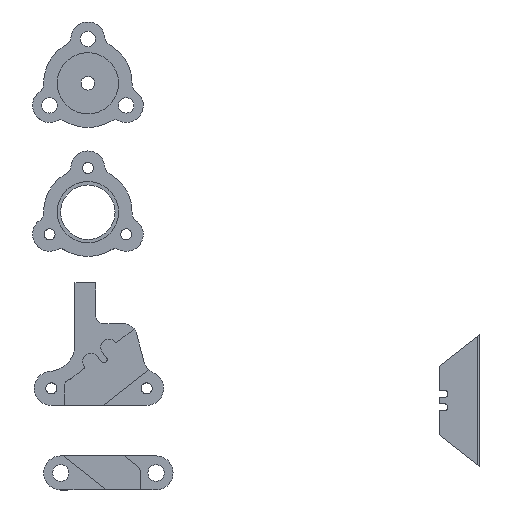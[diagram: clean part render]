
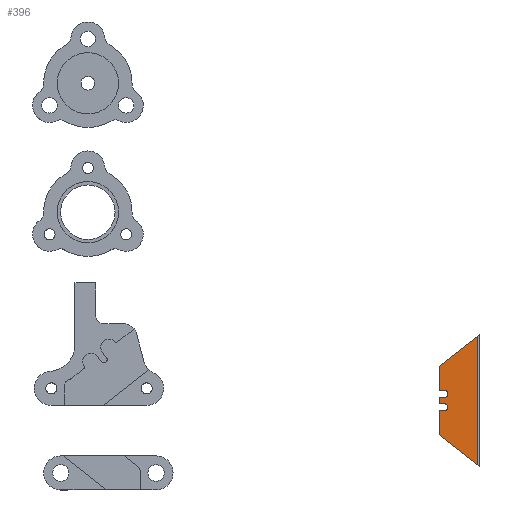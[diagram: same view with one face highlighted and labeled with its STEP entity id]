
A CAD part, top view. The second image highlights one B-rep face of the part: STEP entity #396.
In plain terms, the highlighted planar face has unit normal (0, 0, 1).
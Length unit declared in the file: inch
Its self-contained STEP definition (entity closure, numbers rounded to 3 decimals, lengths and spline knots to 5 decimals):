
#112 = VERTEX_POINT ( 'NONE', #2034 ) ;
#157 = EDGE_CURVE ( 'NONE', #3145, #808, #2847, .T. ) ;
#159 = CARTESIAN_POINT ( 'NONE',  ( 8.81318, 2.46783, 0.02362 ) ) ;
#174 = CARTESIAN_POINT ( 'NONE',  ( 8.81318, 2.02245, 0.02362 ) ) ;
#197 = VECTOR ( 'NONE', #615, 39.37008 ) ;
#245 = VECTOR ( 'NONE', #619, 39.37008 ) ;
#278 = ORIENTED_EDGE ( 'NONE', *, *, #2051, .T. ) ;
#315 = VERTEX_POINT ( 'NONE', #1229 ) ;
#333 = CARTESIAN_POINT ( 'NONE',  ( 8.81318, 2.83883, 0.02362 ) ) ;
#376 = DIRECTION ( 'NONE',  ( 0.785, -0.619, 0. ) ) ;
#396 = ADVANCED_FACE ( 'NONE', ( #1468 ), #3153, .T. ) ;
#471 = DIRECTION ( 'NONE',  ( 0., -1., 0. ) ) ;
#554 = CIRCLE ( 'NONE', #2649, 0.0625 ) ;
#568 = EDGE_CURVE ( 'NONE', #1885, #3832, #554, .T. ) ;
#615 = DIRECTION ( 'NONE',  ( 1., 0., 0. ) ) ;
#616 = ORIENTED_EDGE ( 'NONE', *, *, #2240, .T. ) ;
#619 = DIRECTION ( 'NONE',  ( -1., 0., 0. ) ) ;
#645 = CARTESIAN_POINT ( 'NONE',  ( 8.91005, 2.77633, 0.02362 ) ) ;
#688 = LINE ( 'NONE', #1747, #1403 ) ;
#710 = DIRECTION ( 'NONE',  ( 1., 0., 0. ) ) ;
#808 = VERTEX_POINT ( 'NONE', #174 ) ;
#928 = DIRECTION ( 'NONE',  ( 0., 0., -1. ) ) ;
#1007 = CARTESIAN_POINT ( 'NONE',  ( 8.91005, 2.53033, 0.02362 ) ) ;
#1089 = CARTESIAN_POINT ( 'NONE',  ( 8.81318, 2.02245, 0.02362 ) ) ;
#1192 = CARTESIAN_POINT ( 'NONE',  ( 8.91005, 2.53033, 0.02362 ) ) ;
#1196 = EDGE_CURVE ( 'NONE', #3060, #1516, #3682, .T. ) ;
#1214 = EDGE_CURVE ( 'NONE', #3832, #3145, #1971, .T. ) ;
#1229 = CARTESIAN_POINT ( 'NONE',  ( 8.91005, 2.83883, 0.02362 ) ) ;
#1247 = DIRECTION ( 'NONE',  ( 1., 0., 0. ) ) ;
#1257 = CARTESIAN_POINT ( 'NONE',  ( 9.51094, 3.83442, 0.02362 ) ) ;
#1291 = VECTOR ( 'NONE', #376, 39.37008 ) ;
#1350 = CARTESIAN_POINT ( 'NONE',  ( 8.81318, 2.83883, 0.02362 ) ) ;
#1403 = VECTOR ( 'NONE', #2393, 39.37008 ) ;
#1468 = FACE_OUTER_BOUND ( 'NONE', #3063, .T. ) ;
#1493 = EDGE_CURVE ( 'NONE', #2706, #3457, #2733, .T. ) ;
#1516 = VERTEX_POINT ( 'NONE', #1843 ) ;
#1536 = ORIENTED_EDGE ( 'NONE', *, *, #3554, .T. ) ;
#1550 = VECTOR ( 'NONE', #1848, 39.37008 ) ;
#1612 = CARTESIAN_POINT ( 'NONE',  ( 8.81318, 2.46783, 0.02362 ) ) ;
#1726 = CARTESIAN_POINT ( 'NONE',  ( 9.55199, 1.43988, 0.02362 ) ) ;
#1728 = CARTESIAN_POINT ( 'NONE',  ( 8.91005, 2.46783, 0.02362 ) ) ;
#1747 = CARTESIAN_POINT ( 'NONE',  ( 8.81318, 2.71383, 0.02362 ) ) ;
#1778 = VECTOR ( 'NONE', #471, 39.37008 ) ;
#1838 = DIRECTION ( 'NONE',  ( -0.785, -0.619, 0. ) ) ;
#1843 = CARTESIAN_POINT ( 'NONE',  ( 8.81318, 2.59283, 0.02362 ) ) ;
#1848 = DIRECTION ( 'NONE',  ( 0., -1., 0. ) ) ;
#1885 = VERTEX_POINT ( 'NONE', #3024 ) ;
#1889 = DIRECTION ( 'NONE',  ( 1., 0., 0. ) ) ;
#1896 = DIRECTION ( 'NONE',  ( 0., -1., 0. ) ) ;
#1971 = LINE ( 'NONE', #1612, #245 ) ;
#2022 = VECTOR ( 'NONE', #1896, 39.37008 ) ;
#2034 = CARTESIAN_POINT ( 'NONE',  ( 8.91005, 2.71383, 0.02362 ) ) ;
#2051 = EDGE_CURVE ( 'NONE', #3457, #4134, #2268, .T. ) ;
#2092 = ORIENTED_EDGE ( 'NONE', *, *, #157, .T. ) ;
#2112 = EDGE_CURVE ( 'NONE', #112, #3060, #688, .T. ) ;
#2215 = AXIS2_PLACEMENT_3D ( 'NONE', #1192, #4105, #1889 ) ;
#2240 = EDGE_CURVE ( 'NONE', #1516, #1885, #2418, .T. ) ;
#2268 = LINE ( 'NONE', #333, #1550 ) ;
#2381 = CARTESIAN_POINT ( 'NONE',  ( 8.91005, 2.83883, 0.02362 ) ) ;
#2383 = EDGE_CURVE ( 'NONE', #808, #3956, #3866, .T. ) ;
#2393 = DIRECTION ( 'NONE',  ( -1., 0., 0. ) ) ;
#2411 = CIRCLE ( 'NONE', #4077, 0.0625 ) ;
#2418 = LINE ( 'NONE', #2837, #197 ) ;
#2427 = VECTOR ( 'NONE', #1838, 39.37008 ) ;
#2439 = CARTESIAN_POINT ( 'NONE',  ( 9.51094, 3.86679, 0.02362 ) ) ;
#2475 = CARTESIAN_POINT ( 'NONE',  ( 8.81318, 3.28422, 0.02362 ) ) ;
#2604 = EDGE_CURVE ( 'NONE', #3956, #2706, #3430, .T. ) ;
#2606 = LINE ( 'NONE', #2381, #3276 ) ;
#2649 = AXIS2_PLACEMENT_3D ( 'NONE', #1007, #3931, #710 ) ;
#2701 = DIRECTION ( 'NONE',  ( 1., 0., 0. ) ) ;
#2706 = VERTEX_POINT ( 'NONE', #1257 ) ;
#2733 = LINE ( 'NONE', #2475, #2427 ) ;
#2834 = CARTESIAN_POINT ( 'NONE',  ( 9.51094, 1.47225, 0.02362 ) ) ;
#2837 = CARTESIAN_POINT ( 'NONE',  ( 8.91005, 2.59283, 0.02362 ) ) ;
#2847 = LINE ( 'NONE', #1089, #1778 ) ;
#2904 = CARTESIAN_POINT ( 'NONE',  ( 8.81318, 2.59283, 0.02362 ) ) ;
#3013 = ORIENTED_EDGE ( 'NONE', *, *, #1214, .T. ) ;
#3024 = CARTESIAN_POINT ( 'NONE',  ( 8.91005, 2.59283, 0.02362 ) ) ;
#3025 = EDGE_CURVE ( 'NONE', #4134, #315, #2606, .T. ) ;
#3060 = VERTEX_POINT ( 'NONE', #3091 ) ;
#3063 = EDGE_LOOP ( 'NONE', ( #3662, #3951, #3296, #278, #4018, #1536, #3151, #3176, #616, #3318, #3013, #2092 ) ) ;
#3067 = DIRECTION ( 'NONE',  ( 0., 1., 0. ) ) ;
#3091 = CARTESIAN_POINT ( 'NONE',  ( 8.81318, 2.71383, 0.02362 ) ) ;
#3145 = VERTEX_POINT ( 'NONE', #159 ) ;
#3151 = ORIENTED_EDGE ( 'NONE', *, *, #2112, .T. ) ;
#3153 = PLANE ( 'NONE',  #2215 ) ;
#3176 = ORIENTED_EDGE ( 'NONE', *, *, #1196, .T. ) ;
#3276 = VECTOR ( 'NONE', #2701, 39.37008 ) ;
#3296 = ORIENTED_EDGE ( 'NONE', *, *, #1493, .T. ) ;
#3318 = ORIENTED_EDGE ( 'NONE', *, *, #568, .T. ) ;
#3430 = LINE ( 'NONE', #2439, #3805 ) ;
#3457 = VERTEX_POINT ( 'NONE', #3886 ) ;
#3554 = EDGE_CURVE ( 'NONE', #315, #112, #2411, .T. ) ;
#3662 = ORIENTED_EDGE ( 'NONE', *, *, #2383, .T. ) ;
#3682 = LINE ( 'NONE', #2904, #2022 ) ;
#3805 = VECTOR ( 'NONE', #3067, 39.37008 ) ;
#3832 = VERTEX_POINT ( 'NONE', #1728 ) ;
#3866 = LINE ( 'NONE', #1726, #1291 ) ;
#3886 = CARTESIAN_POINT ( 'NONE',  ( 8.81318, 3.28422, 0.02362 ) ) ;
#3931 = DIRECTION ( 'NONE',  ( 0., 0., -1. ) ) ;
#3951 = ORIENTED_EDGE ( 'NONE', *, *, #2604, .T. ) ;
#3956 = VERTEX_POINT ( 'NONE', #2834 ) ;
#4018 = ORIENTED_EDGE ( 'NONE', *, *, #3025, .T. ) ;
#4077 = AXIS2_PLACEMENT_3D ( 'NONE', #645, #928, #1247 ) ;
#4105 = DIRECTION ( 'NONE',  ( 0., 0., 1. ) ) ;
#4134 = VERTEX_POINT ( 'NONE', #1350 ) ;
